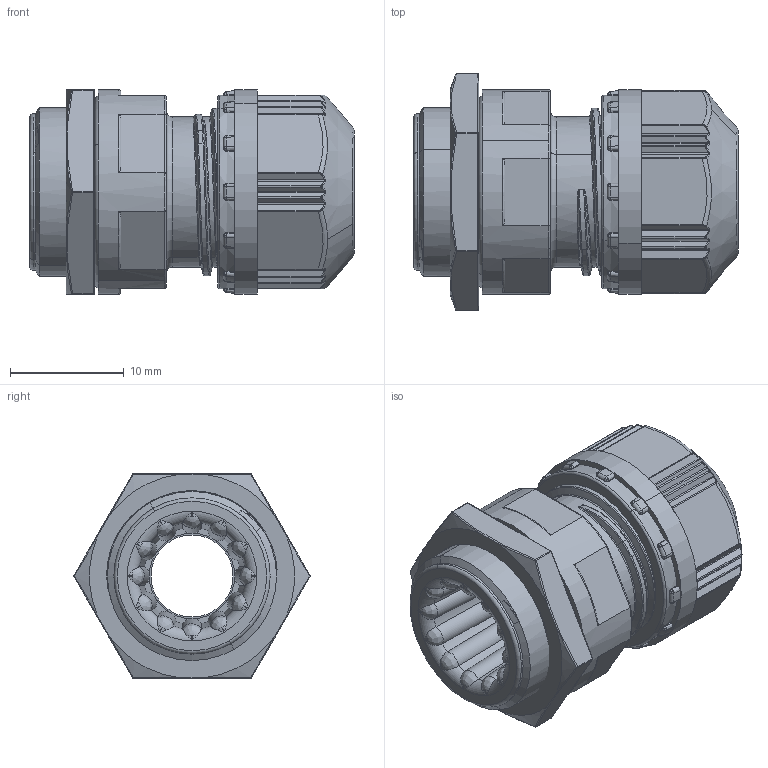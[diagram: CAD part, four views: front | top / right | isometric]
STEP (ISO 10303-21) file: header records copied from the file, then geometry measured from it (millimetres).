
FILE_DESCRIPTION(('Creo Elements/Direct Modeling STEP Export'),'2;1');
FILE_NAME('H05-0017-CL903-02_OA-W15M-07.stp','2021-09-09T11:45:38',(''),(''),'Creo Elements/Direct Modeling STEP processor for AP214 (Solid Model)','Creo Elements/Direct Modeling 20.3B 05-Dec-2020 (C) Parametric Technology GmbH','');
FILE_SCHEMA(('AUTOMOTIVE_DESIGN { 1 0 10303 214 1 1 1 1 }'));
Length unit declared in the file: millimetre
Products named in the file (4): Rubber Bushing; Nipple_etc; Locknut; OA-W15M-07
Assembly tree (3 placements, depth 2):
  OA-W15M-07
    Locknut
    Nipple_etc
    Rubber Bushing
Bounding box: 28.5 x 20.75 x 18 mm (x, y, z)
Volume: 4694 mm3; surface area: 4492.5 mm2
Topology: 3 solids, 3 shells, 673 faces, 1723 edges, 1059 vertices
Faces by surface type: bspline 267, cylinder 165, plane 135, torus 60, cone 40, sphere 6
Entity records: 46264 total; most frequent: CARTESIAN_POINT 33484, ORIENTED_EDGE 3430, EDGE_CURVE 1715, DIRECTION 1520, VERTEX_POINT 1059, B_SPLINE_CURVE_WITH_KNOTS 705, EDGE_LOOP 690, FACE_OUTER_BOUND 673
